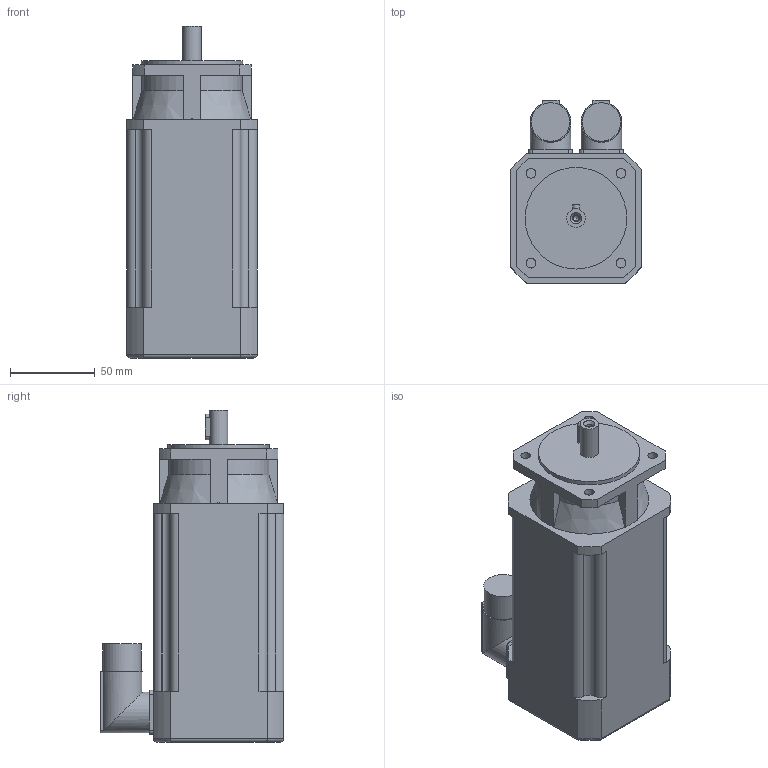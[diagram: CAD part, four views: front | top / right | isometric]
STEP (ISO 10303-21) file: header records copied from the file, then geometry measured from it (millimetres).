
FILE_DESCRIPTION(/* description */ (''),/* implementation_level */ '2;1');
FILE_NAME(/* name */ '\\Lafnas01\disegni\Archivi Lafert\3D\CAD 3D\MODELLI\Assiemi clienti\Serad\Modelli 3D Serad\B36I\Resolver\Res With Brake\B36D6Ixx6B052033.ipt.stp',/* time_stamp */ '2015-09-07T10:49:06+02:00',/* author */ ('Pastrello Ylenia'),/* organization */ (''),/* preprocessor_version */ 'ST-DEVELOPER v15.6',/* originating_system */ 'Autodesk Inventor 2015',/* authorisation */ '');
FILE_SCHEMA (('AUTOMOTIVE_DESIGN { 1 0 10303 214 3 1 1 }'));
Length unit declared in the file: millimetre
Products named in the file (1): B36D6Ixx6B052033
Bounding box: 77 x 108.5 x 196 mm (x, y, z)
Volume: 963979.3 mm3; surface area: 72961.4 mm2
Topology: 1 solids, 1 shells, 137 faces, 372 edges, 244 vertices
Faces by surface type: plane 66, cylinder 56, cone 11, torus 4
Full cylindrical faces by diameter (mm): 3.242 x1, 4.3 x1, 5.8 x4, 11 x1, 22.7 x2, 24 x2, 60 x1
Entity records: 4352 total; most frequent: CARTESIAN_POINT 890, DIRECTION 726, ORIENTED_EDGE 702, EDGE_CURVE 351, AXIS2_PLACEMENT_3D 259, VERTEX_POINT 239, LINE 208, VECTOR 208
